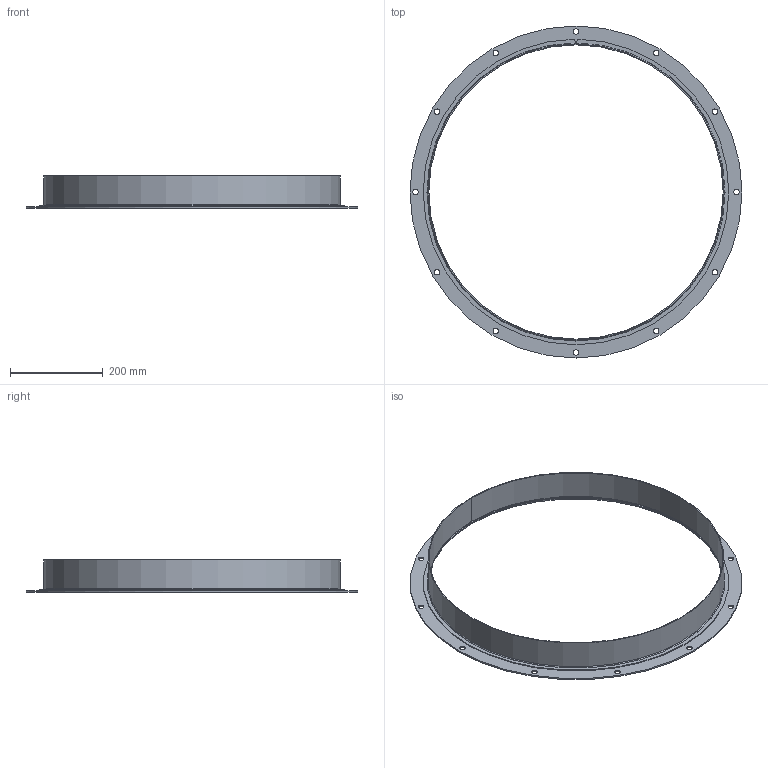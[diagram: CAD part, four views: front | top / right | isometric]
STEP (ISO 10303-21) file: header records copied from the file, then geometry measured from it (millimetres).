
FILE_DESCRIPTION(/* description */ ('Stub K-905'),/* implementation_level */ '2;1');
FILE_NAME(/* name */ 'Y:\VaultRobocze\Designs\2\0\02\900 280\2 002 900 280.stp',/* time_stamp */ '2018-03-30T10:46:23+02:00',/* author */ ('TomaszCie'),/* organization */ (''),/* preprocessor_version */ 'ST-DEVELOPER v16.13',/* originating_system */ 'Autodesk Inventor 2018',/* authorisation */ '');
FILE_SCHEMA (('AUTOMOTIVE_DESIGN { 1 0 10303 214 3 1 1 }'));
Length unit declared in the file: millimetre
Products named in the file (3): 2 002 900 280; 2 002 900 281; 2 002 900 282
Assembly tree (2 placements, depth 2):
  2 002 900 280
    2 002 900 281
    2 002 900 282
Bounding box: 714 x 714 x 69 mm (x, y, z)
Volume: 548783.4 mm3; surface area: 487899.8 mm2
Topology: 2 solids, 2 shells, 28 faces, 70 edges, 46 vertices
Faces by surface type: cylinder 17, plane 9, torus 2
Full cylindrical faces by diameter (mm): 12 x12, 633 x1, 634 x1, 637 x1, 714 x1
Entity records: 952 total; most frequent: DIRECTION 164, CARTESIAN_POINT 135, ORIENTED_EDGE 112, AXIS2_PLACEMENT_3D 75, EDGE_LOOP 68, EDGE_CURVE 56, VERTEX_POINT 46, FACE_BOUND 40
